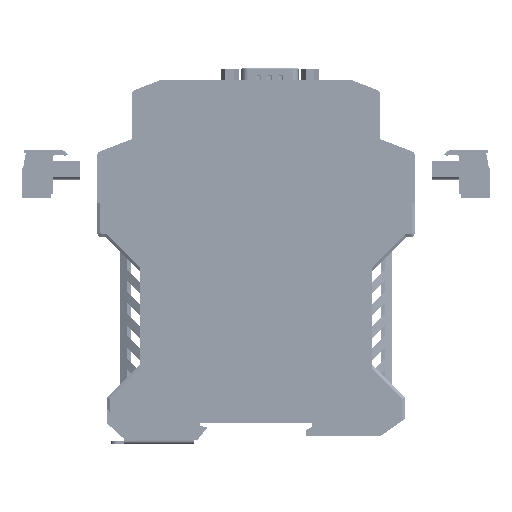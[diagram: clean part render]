
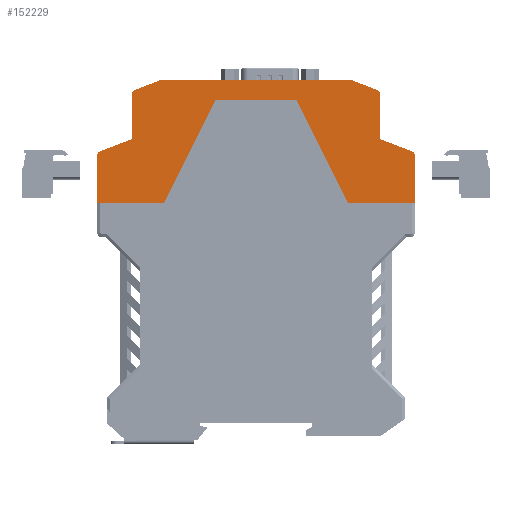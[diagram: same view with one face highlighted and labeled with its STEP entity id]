
A CAD part, left-side view. The second image highlights one B-rep face of the part: STEP entity #152229.
In plain terms, the highlighted planar face has unit normal (-1, 0, 0) as drawn and (0, 0, 1) by its records, which use the part's own axes.
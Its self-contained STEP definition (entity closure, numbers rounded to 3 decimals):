
#152229=ADVANCED_FACE('',(#290169),#290171,.T.);
#290169=FACE_BOUND('',#290170,.T.);
#290170=EDGE_LOOP('',(#402653,#402654,#402655,#402656,#402657,#402658,#402659,#402660,
#402661,#402662,#402663,#402664,#402665,#402666,#402667,#402668,#402669,#402670));
#290171=PLANE('',#290172);
#290172=AXIS2_PLACEMENT_3D('',#290173,#290174,#290175);
#290173=CARTESIAN_POINT('',(26.857,181.064,45.2));
#290174=DIRECTION('',(0.,0.,1.));
#290175=DIRECTION('',(1.,0.,0.));
#402653=ORIENTED_EDGE('',*,*,#462141,.T.);
#402654=ORIENTED_EDGE('',*,*,#462142,.T.);
#402655=ORIENTED_EDGE('',*,*,#462065,.T.);
#402656=ORIENTED_EDGE('',*,*,#462138,.F.);
#402657=ORIENTED_EDGE('',*,*,#462143,.F.);
#402658=ORIENTED_EDGE('',*,*,#462144,.F.);
#402659=ORIENTED_EDGE('',*,*,#462145,.T.);
#402660=ORIENTED_EDGE('',*,*,#462146,.T.);
#402661=ORIENTED_EDGE('',*,*,#462147,.F.);
#402662=ORIENTED_EDGE('',*,*,#462148,.T.);
#402663=ORIENTED_EDGE('',*,*,#462149,.F.);
#402664=ORIENTED_EDGE('',*,*,#462150,.F.);
#402665=ORIENTED_EDGE('',*,*,#462151,.F.);
#402666=ORIENTED_EDGE('',*,*,#462152,.F.);
#402667=ORIENTED_EDGE('',*,*,#462153,.T.);
#402668=ORIENTED_EDGE('',*,*,#462154,.F.);
#402669=ORIENTED_EDGE('',*,*,#462155,.F.);
#402670=ORIENTED_EDGE('',*,*,#462156,.T.);
#462065=EDGE_CURVE('',#547357,#547355,#547358,.T.);
#462138=EDGE_CURVE('',#547493,#547355,#547494,.T.);
#462141=EDGE_CURVE('',#547498,#547499,#547500,.T.);
#462142=EDGE_CURVE('',#547499,#547357,#547501,.T.);
#462143=EDGE_CURVE('',#547502,#547493,#547503,.T.);
#462144=EDGE_CURVE('',#547504,#547502,#547505,.T.);
#462145=EDGE_CURVE('',#547504,#547506,#547507,.T.);
#462146=EDGE_CURVE('',#547506,#547508,#547509,.T.);
#462147=EDGE_CURVE('',#547510,#547508,#547511,.T.);
#462148=EDGE_CURVE('',#547510,#547512,#547513,.T.);
#462149=EDGE_CURVE('',#547514,#547512,#547515,.T.);
#462150=EDGE_CURVE('',#547516,#547514,#547517,.T.);
#462151=EDGE_CURVE('',#547518,#547516,#547519,.T.);
#462152=EDGE_CURVE('',#547520,#547518,#547521,.T.);
#462153=EDGE_CURVE('',#547520,#547522,#547523,.T.);
#462154=EDGE_CURVE('',#547524,#547522,#547525,.T.);
#462155=EDGE_CURVE('',#547526,#547524,#547527,.T.);
#462156=EDGE_CURVE('',#547526,#547498,#547528,.T.);
#547355=VERTEX_POINT('',#748343);
#547357=VERTEX_POINT('',#748347);
#547358=LINE('',#748348,#748349);
#547493=VERTEX_POINT('',#748639);
#547494=LINE('',#748640,#748641);
#547498=VERTEX_POINT('',#748650);
#547499=VERTEX_POINT('',#748651);
#547500=CIRCLE('',#748652,1.5);
#547501=LINE('',#748656,#748657);
#547502=VERTEX_POINT('',#748659);
#547503=CIRCLE('',#748660,1.5);
#547504=VERTEX_POINT('',#748664);
#547505=LINE('',#748665,#748666);
#547506=VERTEX_POINT('',#748668);
#547507=LINE('',#748669,#748670);
#547508=VERTEX_POINT('',#748672);
#547509=CIRCLE('',#748673,1.5);
#547510=VERTEX_POINT('',#748677);
#547511=LINE('',#748678,#748679);
#547512=VERTEX_POINT('',#748681);
#547513=LINE('',#748682,#748683);
#547514=VERTEX_POINT('',#748685);
#547515=LINE('',#748686,#748687);
#547516=VERTEX_POINT('',#748689);
#547517=LINE('',#748690,#748691);
#547518=VERTEX_POINT('',#748693);
#547519=LINE('',#748694,#748695);
#547520=VERTEX_POINT('',#748697);
#547521=LINE('',#748698,#748699);
#547522=VERTEX_POINT('',#748701);
#547523=LINE('',#748702,#748703);
#547524=VERTEX_POINT('',#748705);
#547525=CIRCLE('',#748706,1.5);
#547526=VERTEX_POINT('',#748710);
#547527=LINE('',#748711,#748712);
#547528=LINE('',#748714,#748715);
#748343=CARTESIAN_POINT('',(-29.6,202.097,45.2));
#748347=CARTESIAN_POINT('',(29.6,202.097,45.2));
#748348=CARTESIAN_POINT('',(29.6,202.097,45.2));
#748349=VECTOR('',#748350,1.);
#748350=DIRECTION('',(-1.,0.,0.));
#748639=CARTESIAN_POINT('',(-37.838,198.934,45.2));
#748640=CARTESIAN_POINT('',(-37.838,198.934,45.2));
#748641=VECTOR('',#748642,1.);
#748642=DIRECTION('',(0.934,0.358,0.));
#748650=CARTESIAN_POINT('',(38.8,197.534,45.2));
#748651=CARTESIAN_POINT('',(37.838,198.934,45.2));
#748652=AXIS2_PLACEMENT_3D('',#748653,#748654,#748655);
#748653=CARTESIAN_POINT('',(37.3,197.534,45.2));
#748654=DIRECTION('',(0.,0.,1.));
#748655=DIRECTION('',(1.,0.,0.));
#748656=CARTESIAN_POINT('',(37.838,198.934,45.2));
#748657=VECTOR('',#748658,1.);
#748658=DIRECTION('',(-0.934,0.358,0.));
#748659=CARTESIAN_POINT('',(-38.8,197.534,45.2));
#748660=AXIS2_PLACEMENT_3D('',#748661,#748662,#748663);
#748661=CARTESIAN_POINT('',(-37.3,197.534,45.2));
#748662=DIRECTION('',(0.,0.,-1.));
#748663=DIRECTION('',(-1.,0.,0.));
#748664=CARTESIAN_POINT('',(-38.8,183.597,45.2));
#748665=CARTESIAN_POINT('',(-38.8,183.597,45.2));
#748666=VECTOR('',#748667,1.);
#748667=DIRECTION('',(0.,1.,0.));
#748668=CARTESIAN_POINT('',(-48.537,179.866,45.2));
#748669=CARTESIAN_POINT('',(-38.8,183.597,45.2));
#748670=VECTOR('',#748671,1.);
#748671=DIRECTION('',(-0.934,-0.358,0.));
#748672=CARTESIAN_POINT('',(-49.5,178.465,45.2));
#748673=AXIS2_PLACEMENT_3D('',#748674,#748675,#748676);
#748674=CARTESIAN_POINT('',(-48.,178.465,45.2));
#748675=DIRECTION('',(0.,-0.,1.));
#748676=DIRECTION('',(-0.358,0.934,0.));
#748677=CARTESIAN_POINT('',(-49.5,163.597,45.2));
#748678=CARTESIAN_POINT('',(-49.5,163.597,45.2));
#748679=VECTOR('',#748680,1.);
#748680=DIRECTION('',(0.,1.,0.));
#748681=CARTESIAN_POINT('',(-28.75,163.597,45.2));
#748682=CARTESIAN_POINT('',(-49.5,163.597,45.2));
#748683=VECTOR('',#748684,1.);
#748684=DIRECTION('',(1.,0.,0.));
#748685=CARTESIAN_POINT('',(-12.7,195.797,45.2));
#748686=CARTESIAN_POINT('',(-12.7,195.797,45.2));
#748687=VECTOR('',#748688,1.);
#748688=DIRECTION('',(-0.446,-0.895,0.));
#748689=CARTESIAN_POINT('',(12.7,195.797,45.2));
#748690=CARTESIAN_POINT('',(12.7,195.797,45.2));
#748691=VECTOR('',#748692,1.);
#748692=DIRECTION('',(-1.,0.,0.));
#748693=CARTESIAN_POINT('',(28.75,163.597,45.2));
#748694=CARTESIAN_POINT('',(28.75,163.597,45.2));
#748695=VECTOR('',#748696,1.);
#748696=DIRECTION('',(-0.446,0.895,0.));
#748697=CARTESIAN_POINT('',(49.5,163.597,45.2));
#748698=CARTESIAN_POINT('',(49.5,163.597,45.2));
#748699=VECTOR('',#748700,1.);
#748700=DIRECTION('',(-1.,0.,0.));
#748701=CARTESIAN_POINT('',(49.5,178.465,45.2));
#748702=CARTESIAN_POINT('',(49.5,163.597,45.2));
#748703=VECTOR('',#748704,1.);
#748704=DIRECTION('',(0.,1.,0.));
#748705=CARTESIAN_POINT('',(48.537,179.866,45.2));
#748706=AXIS2_PLACEMENT_3D('',#748707,#748708,#748709);
#748707=CARTESIAN_POINT('',(48.,178.465,45.2));
#748708=DIRECTION('',(0.,0.,-1.));
#748709=DIRECTION('',(0.358,0.934,0.));
#748710=CARTESIAN_POINT('',(38.8,183.597,45.2));
#748711=CARTESIAN_POINT('',(38.8,183.597,45.2));
#748712=VECTOR('',#748713,1.);
#748713=DIRECTION('',(0.934,-0.358,0.));
#748714=CARTESIAN_POINT('',(38.8,183.597,45.2));
#748715=VECTOR('',#748716,1.);
#748716=DIRECTION('',(0.,1.,0.));
